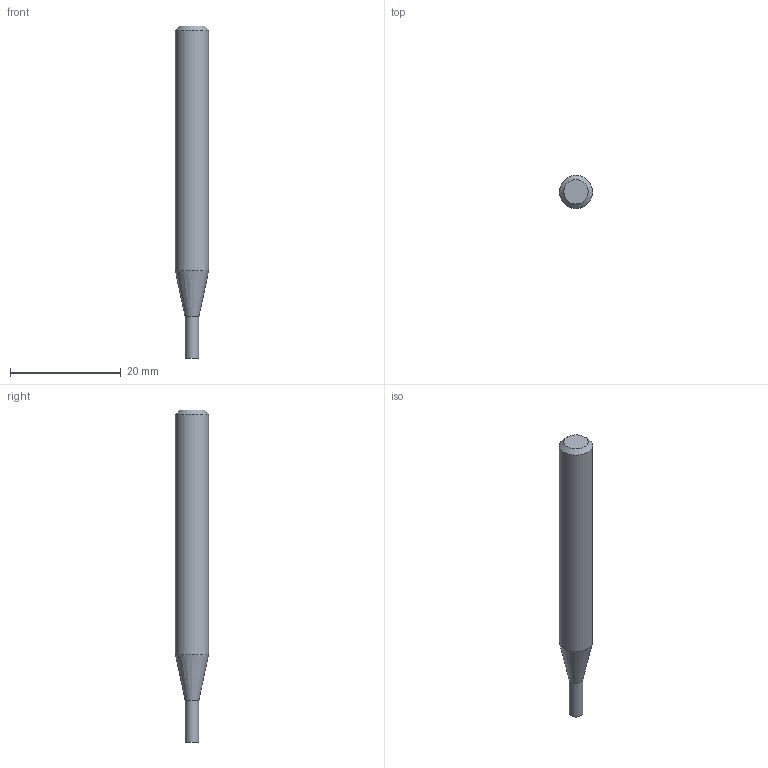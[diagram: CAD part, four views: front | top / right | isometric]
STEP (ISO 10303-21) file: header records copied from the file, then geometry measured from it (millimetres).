
FILE_DESCRIPTION((''),'2;1');
FILE_NAME('C:\Users\nsx150\AppData\Local\Temp\Mastercam 2021\AMKO7YXE3Q\TEMP.step','2024-03-15T17:54:55',(''),(''),'STEP Write','Mastercam 2021 ... CNC Software, Inc.','');
FILE_SCHEMA(('AUTOMOTIVE_DESIGN'));
Length unit declared in the file: millimetre
Products named in the file (1): None
Bounding box: 6 x 6 x 60 mm (x, y, z)
Volume: 1406.3 mm3; surface area: 1039 mm2
Topology: 2 solids, 2 shells, 8 faces, 10 edges, 6 vertices
Faces by surface type: plane 4, cylinder 2, cone 2
Full cylindrical faces by diameter (mm): 2.5 x1, 6 x1
Entity records: 190 total; most frequent: DIRECTION 32, CARTESIAN_POINT 22, AXIS2_PLACEMENT_3D 16, ORIENTED_EDGE 12, EDGE_LOOP 12, STYLED_ITEM 11, ADVANCED_FACE 8, VERTEX_POINT 6
